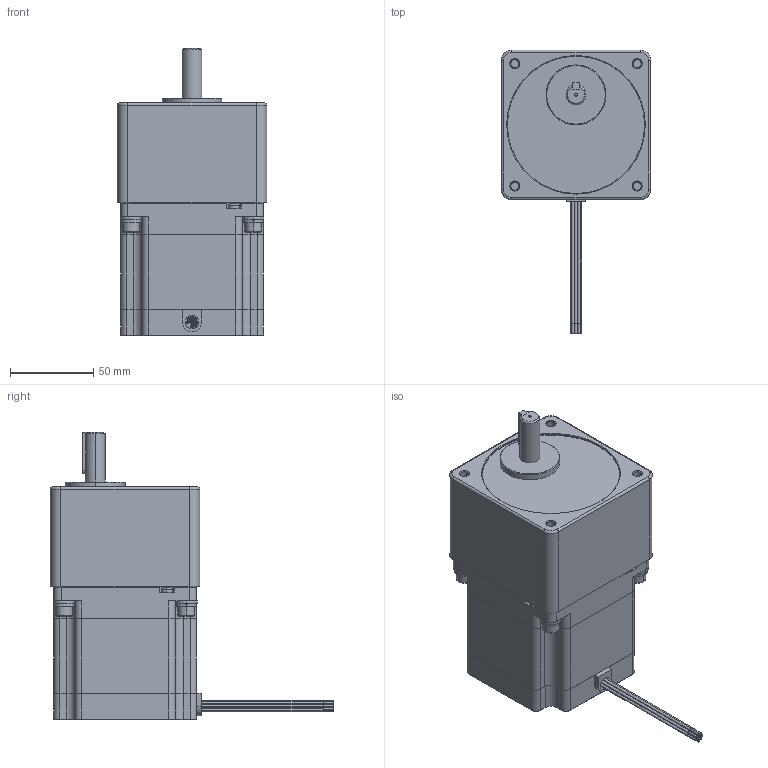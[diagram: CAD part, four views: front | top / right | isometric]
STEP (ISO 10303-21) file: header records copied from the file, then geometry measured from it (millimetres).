
FILE_DESCRIPTION (( 'STEP AP214' ), '1' );
FILE_NAME ('34YSG108S-LW8-R50.STEP', '2010-06-18T16:39:01', ( 'Tim Raines' ), ( 'Anaheim Automation' ), 'SwSTEP 2.0', 'SolidWorks 2010', '' );
FILE_SCHEMA (( 'AUTOMOTIVE_DESIGN' ));
Length unit declared in the file: millimetre
Products named in the file (6): 34SG Series_34SG2; Lock Washer Spring Regular_AI_Regular LW 0.25; Socket Head Cap Screw_AM_B18.3.1M - 6 x 1.0 x 20 Hex SHCS -- 20NHX; Flat Washer Narrow_AM_B18.22M - Plain washer, 6 mm, narrow; 34YSG108S-LW8-R50; 34YSG Motor_34YSG108S-LW8
Assembly tree (14 placements, depth 2):
  34YSG108S-LW8-R50
    Flat Washer Narrow_AM_B18.22M - Plain washer, 6 mm, narrow  x4
    Socket Head Cap Screw_AM_B18.3.1M - 6 x 1.0 x 20 Hex SHCS -- 20NHX  x4
    34YSG Motor_34YSG108S-LW8
    Lock Washer Spring Regular_AI_Regular LW 0.25  x4
    34SG Series_34SG2
Bounding box: 89.92 x 170.43 x 173 mm (x, y, z)
Volume: 1011542.4 mm3; surface area: 96878.9 mm2
Topology: 14 solids, 14 shells, 575 faces, 1363 edges, 848 vertices
Faces by surface type: plane 272, cylinder 190, cone 93, torus 20
Entity records: 18465 total; most frequent: CARTESIAN_POINT 2581, DIRECTION 2415, ORIENTED_EDGE 2214, EDGE_CURVE 1107, AXIS2_PLACEMENT_3D 895, VERTEX_POINT 701, VECTOR 625, LINE 625
